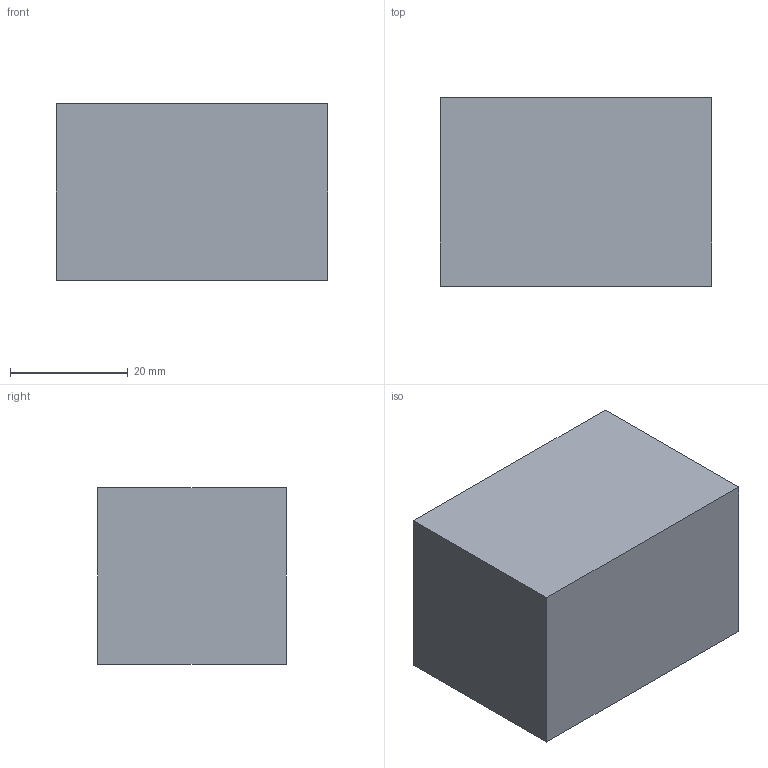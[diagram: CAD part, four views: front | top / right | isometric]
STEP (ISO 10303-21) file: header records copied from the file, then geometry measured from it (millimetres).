
FILE_DESCRIPTION(('Open CASCADE Model'),'2;1');
FILE_NAME('Open CASCADE Shape Model','2026-10-04T01:02:33',('Author'),( 'Open CASCADE'),'Open CASCADE STEP processor 8.0','Open CASCADE 8.0' ,'Unknown');
FILE_SCHEMA(('AUTOMOTIVE_DESIGN { 1 0 10303 214 1 1 1 1 }'));
Length unit declared in the file: millimetre
Products named in the file (1): Open CASCADE STEP translator 8.0 341
Bounding box: 46 x 32 x 30 mm (x, y, z)
Volume: 44160 mm3; surface area: 7624 mm2
Topology: 1 solids, 1 shells, 6 faces, 12 edges, 8 vertices
Faces by surface type: plane 6
Entity records: 322 total; most frequent: CARTESIAN_POINT 51, DIRECTION 50, LINE 36, VECTOR 36, ORIENTED_EDGE 24, PCURVE 24, DEFINITIONAL_REPRESENTATION 24, EDGE_CURVE 12
